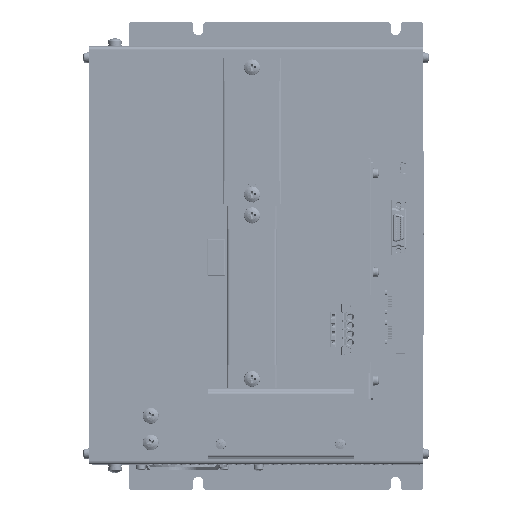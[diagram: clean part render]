
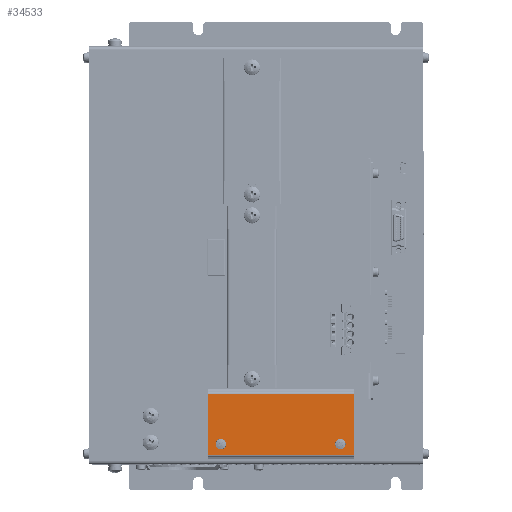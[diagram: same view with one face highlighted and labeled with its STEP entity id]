
A CAD part, top view. The second image highlights one B-rep face of the part: STEP entity #34533.
In plain terms, the highlighted planar face has unit normal (0, 0, 1).
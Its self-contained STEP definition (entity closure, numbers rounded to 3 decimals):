
#8682 = DIRECTION ( 'NONE',  ( 1., 0., 0. ) ) ;
#29375 = EDGE_CURVE ( 'NONE', #437836, #404444, #50348, .T. ) ;
#32231 = LINE ( 'NONE', #365247, #230852 ) ;
#33417 = AXIS2_PLACEMENT_3D ( 'NONE', #168869, #126809, #208932 ) ;
#34099 = EDGE_LOOP ( 'NONE', ( #262925, #241037, #271158, #376408 ) ) ;
#34533 = ADVANCED_FACE ( 'NONE', ( #300481, #162559, #480614 ), #256336, .F. ) ;
#47329 = DIRECTION ( 'NONE',  ( 1., 0., 0. ) ) ;
#50348 = CIRCLE ( 'NONE', #371369, 2. ) ;
#63304 = DIRECTION ( 'NONE',  ( 0., -1., 0. ) ) ;
#65757 = EDGE_CURVE ( 'NONE', #335988, #377122, #377275, .T. ) ;
#73624 = VERTEX_POINT ( 'NONE', #283846 ) ;
#82664 = ORIENTED_EDGE ( 'NONE', *, *, #174605, .F. ) ;
#82912 = CARTESIAN_POINT ( 'NONE',  ( -64.972, -116.871, 193.343 ) ) ;
#83175 = CIRCLE ( 'NONE', #275990, 2. ) ;
#93563 = CARTESIAN_POINT ( 'NONE',  ( -62.972, -116.871, 193.343 ) ) ;
#96924 = LINE ( 'NONE', #391461, #493172 ) ;
#101925 = CARTESIAN_POINT ( 'NONE',  ( 16.528, -124.371, 193.343 ) ) ;
#105267 = CARTESIAN_POINT ( 'NONE',  ( -70.972, -87.071, 193.343 ) ) ;
#113567 = CARTESIAN_POINT ( 'NONE',  ( 6.528, -116.871, 193.343 ) ) ;
#125591 = DIRECTION ( 'NONE',  ( 1., 0., 0. ) ) ;
#126809 = DIRECTION ( 'NONE',  ( 0., 0., 1. ) ) ;
#127271 = DIRECTION ( 'NONE',  ( 0., 0., 1. ) ) ;
#132243 = DIRECTION ( 'NONE',  ( 0., -1., 0. ) ) ;
#141208 = DIRECTION ( 'NONE',  ( -1., 0., 0. ) ) ;
#145212 = EDGE_LOOP ( 'NONE', ( #82664, #446592 ) ) ;
#162559 = FACE_BOUND ( 'NONE', #145212, .T. ) ;
#168869 = CARTESIAN_POINT ( 'NONE',  ( 8.528, -116.871, 193.343 ) ) ;
#174605 = EDGE_CURVE ( 'NONE', #377122, #335988, #336248, .T. ) ;
#184913 = LINE ( 'NONE', #332434, #317111 ) ;
#187414 = LINE ( 'NONE', #407436, #211350 ) ;
#190146 = AXIS2_PLACEMENT_3D ( 'NONE', #101925, #449187, #63304 ) ;
#201990 = VERTEX_POINT ( 'NONE', #247888 ) ;
#208932 = DIRECTION ( 'NONE',  ( 1., 0., 0. ) ) ;
#211350 = VECTOR ( 'NONE', #249881, 1000. ) ;
#218763 = CARTESIAN_POINT ( 'NONE',  ( 16.528, -87.071, 193.343 ) ) ;
#230852 = VECTOR ( 'NONE', #132243, 1000. ) ;
#233135 = DIRECTION ( 'NONE',  ( 1., 0., 0. ) ) ;
#241037 = ORIENTED_EDGE ( 'NONE', *, *, #270786, .T. ) ;
#247888 = CARTESIAN_POINT ( 'NONE',  ( 16.528, -123.371, 193.343 ) ) ;
#249881 = DIRECTION ( 'NONE',  ( 0., -1., 0. ) ) ;
#253500 = EDGE_CURVE ( 'NONE', #404444, #437836, #83175, .T. ) ;
#256336 = PLANE ( 'NONE',  #190146 ) ;
#262925 = ORIENTED_EDGE ( 'NONE', *, *, #368757, .T. ) ;
#264964 = CARTESIAN_POINT ( 'NONE',  ( 10.528, -116.871, 193.343 ) ) ;
#270786 = EDGE_CURVE ( 'NONE', #73624, #201990, #96924, .T. ) ;
#271158 = ORIENTED_EDGE ( 'NONE', *, *, #464118, .F. ) ;
#275990 = AXIS2_PLACEMENT_3D ( 'NONE', #93563, #127271, #125591 ) ;
#280685 = DIRECTION ( 'NONE',  ( 0., 0., 1. ) ) ;
#283846 = CARTESIAN_POINT ( 'NONE',  ( -70.972, -123.371, 193.343 ) ) ;
#284023 = CARTESIAN_POINT ( 'NONE',  ( -62.972, -116.871, 193.343 ) ) ;
#287897 = EDGE_CURVE ( 'NONE', #485025, #421318, #184913, .T. ) ;
#300481 = FACE_OUTER_BOUND ( 'NONE', #34099, .T. ) ;
#307582 = EDGE_LOOP ( 'NONE', ( #404226, #388152 ) ) ;
#317111 = VECTOR ( 'NONE', #141208, 1000. ) ;
#332434 = CARTESIAN_POINT ( 'NONE',  ( 16.528, -87.071, 193.343 ) ) ;
#335988 = VERTEX_POINT ( 'NONE', #113567 ) ;
#336248 = CIRCLE ( 'NONE', #33417, 2. ) ;
#343836 = DIRECTION ( 'NONE',  ( 0., 0., 1. ) ) ;
#365247 = CARTESIAN_POINT ( 'NONE',  ( 16.528, -124.371, 193.343 ) ) ;
#368757 = EDGE_CURVE ( 'NONE', #421318, #73624, #187414, .T. ) ;
#371369 = AXIS2_PLACEMENT_3D ( 'NONE', #284023, #280685, #47329 ) ;
#376408 = ORIENTED_EDGE ( 'NONE', *, *, #287897, .T. ) ;
#377122 = VERTEX_POINT ( 'NONE', #264964 ) ;
#377275 = CIRCLE ( 'NONE', #493956, 2. ) ;
#388152 = ORIENTED_EDGE ( 'NONE', *, *, #29375, .F. ) ;
#391461 = CARTESIAN_POINT ( 'NONE',  ( 16.528, -123.371, 193.343 ) ) ;
#404226 = ORIENTED_EDGE ( 'NONE', *, *, #253500, .F. ) ;
#404444 = VERTEX_POINT ( 'NONE', #468727 ) ;
#407436 = CARTESIAN_POINT ( 'NONE',  ( -70.972, -124.371, 193.343 ) ) ;
#420906 = CARTESIAN_POINT ( 'NONE',  ( 8.528, -116.871, 193.343 ) ) ;
#421318 = VERTEX_POINT ( 'NONE', #105267 ) ;
#437836 = VERTEX_POINT ( 'NONE', #82912 ) ;
#446592 = ORIENTED_EDGE ( 'NONE', *, *, #65757, .F. ) ;
#449187 = DIRECTION ( 'NONE',  ( 0., 0., -1. ) ) ;
#464118 = EDGE_CURVE ( 'NONE', #485025, #201990, #32231, .T. ) ;
#468727 = CARTESIAN_POINT ( 'NONE',  ( -60.972, -116.871, 193.343 ) ) ;
#480614 = FACE_BOUND ( 'NONE', #307582, .T. ) ;
#485025 = VERTEX_POINT ( 'NONE', #218763 ) ;
#493172 = VECTOR ( 'NONE', #8682, 1000. ) ;
#493956 = AXIS2_PLACEMENT_3D ( 'NONE', #420906, #343836, #233135 ) ;
